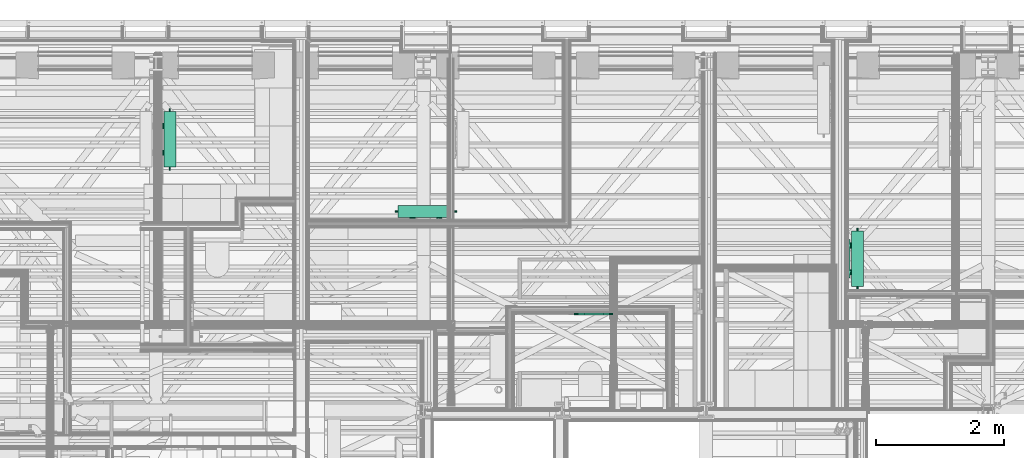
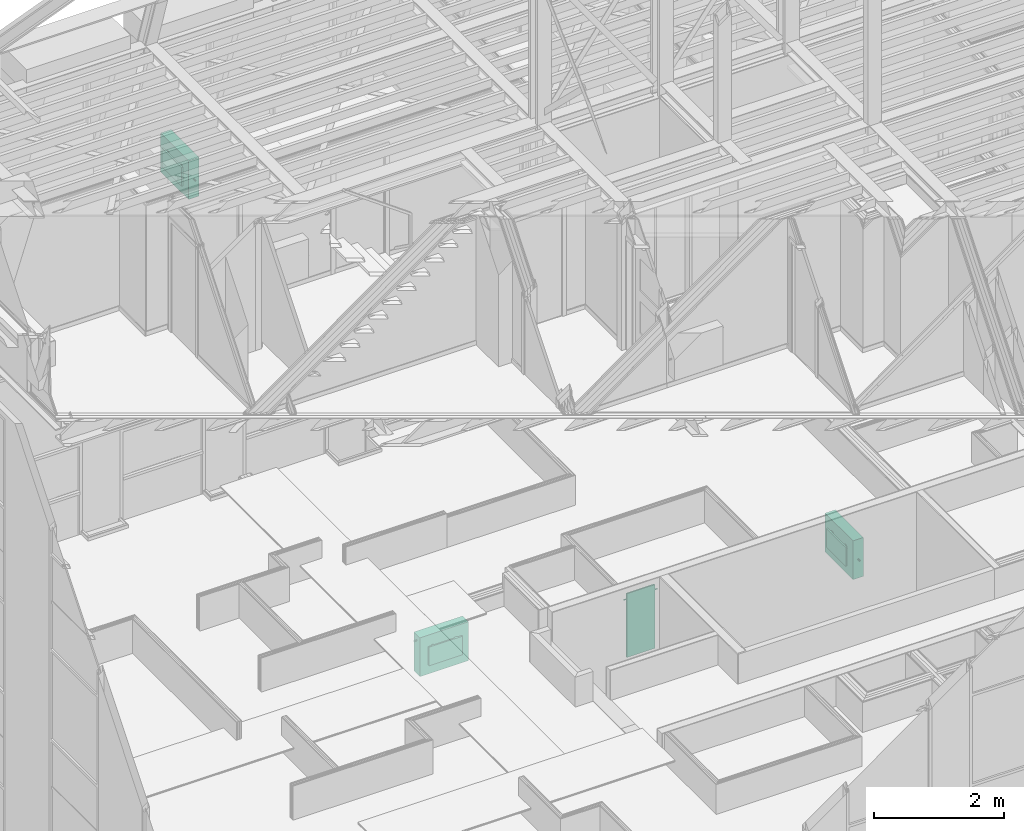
# One storey, part 163 of 183: 4 flow terminals.
"""IFC2X3 building model written with IfcOpenShell, lengths in metres."""

from ifc_helpers import new_model, entity, si_unit, converted_unit, derived_unit, money_unit, direction, frame, origin_with_axes, place, context, subcontext, project, spatial, open_shell, surface_model, material, type_object, element, save


model = new_model("IFC2X3")

# Units and contexts
model_context = context("Model", 3, precision=1e-05, world=origin_with_axes(), true_north=direction((0.0, 1.0)))
body_context = subcontext(model_context, "Body", "Model", "MODEL_VIEW", scale=1.0)
ifc_project = project(units=[si_unit("LENGTHUNIT", "METRE"), si_unit("AREAUNIT", "SQUARE_METRE"), si_unit("VOLUMEUNIT", "CUBIC_METRE"), si_unit("ABSORBEDDOSEUNIT", "GRAY"), si_unit("AMOUNTOFSUBSTANCEUNIT", "MOLE"), si_unit("DOSEEQUIVALENTUNIT", "SIEVERT"), si_unit("ELECTRICCAPACITANCEUNIT", "FARAD"), si_unit("ELECTRICCHARGEUNIT", "COULOMB"), si_unit("ELECTRICCONDUCTANCEUNIT", "SIEMENS"), si_unit("ELECTRICCURRENTUNIT", "AMPERE"), si_unit("ELECTRICRESISTANCEUNIT", "OHM"), si_unit("ELECTRICVOLTAGEUNIT", "VOLT"), si_unit("ENERGYUNIT", "JOULE"), si_unit("FORCEUNIT", "NEWTON"), si_unit("FREQUENCYUNIT", "HERTZ"), si_unit("ILLUMINANCEUNIT", "LUX"), si_unit("INDUCTANCEUNIT", "HENRY"), si_unit("LUMINOUSFLUXUNIT", "LUMEN"), si_unit("LUMINOUSINTENSITYUNIT", "CANDELA"), si_unit("MAGNETICFLUXDENSITYUNIT", "TESLA"), si_unit("MAGNETICFLUXUNIT", "WEBER"), si_unit("MASSUNIT", "GRAM"), converted_unit("PLANEANGLEUNIT", "degree", entity("IfcReal", 0.0174532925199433), si_unit("PLANEANGLEUNIT", "RADIAN"), dimensions=[0, 0, 0, 0, 0, 0, 0]), si_unit("POWERUNIT", "WATT"), si_unit("PRESSUREUNIT", "PASCAL"), si_unit("RADIOACTIVITYUNIT", "BECQUEREL"), si_unit("SOLIDANGLEUNIT", "STERADIAN"), si_unit("THERMODYNAMICTEMPERATUREUNIT", "KELVIN"), si_unit("TIMEUNIT", "SECOND"), derived_unit("ACCELERATIONUNIT", [(si_unit("LENGTHUNIT", "METRE"), 1), (si_unit("TIMEUNIT", "SECOND"), -2)]), derived_unit("ANGULARVELOCITYUNIT", [(converted_unit("PLANEANGLEUNIT", "degree", entity("IfcReal", 0.0174532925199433), si_unit("PLANEANGLEUNIT", "RADIAN"), dimensions=[0, 0, 0, 0, 0, 0, 0]), 1), (si_unit("TIMEUNIT", "SECOND"), -1)]), derived_unit("CURVATUREUNIT", [(converted_unit("PLANEANGLEUNIT", "degree", entity("IfcReal", 0.0174532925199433), si_unit("PLANEANGLEUNIT", "RADIAN"), dimensions=[0, 0, 0, 0, 0, 0, 0]), 1), (si_unit("LENGTHUNIT", "METRE"), -1)]), derived_unit("DYNAMICVISCOSITYUNIT", [(si_unit("PRESSUREUNIT", "PASCAL"), 1), (si_unit("TIMEUNIT", "SECOND"), 1)]), derived_unit("HEATFLUXDENSITYUNIT", [(si_unit("POWERUNIT", "WATT"), 1), (si_unit("LENGTHUNIT", "METRE"), -2)]), derived_unit("HEATINGVALUEUNIT", [(si_unit("ENERGYUNIT", "JOULE"), 1), (si_unit("MASSUNIT", "GRAM"), -1)]), derived_unit("INTEGERCOUNTRATEUNIT", [(si_unit("TIMEUNIT", "SECOND"), -1)]), derived_unit("IONCONCENTRATIONUNIT", [(si_unit("MASSUNIT", "GRAM"), 1), (si_unit("VOLUMEUNIT", "CUBIC_METRE"), -1)]), derived_unit("ISOTHERMALMOISTURECAPACITYUNIT", [(si_unit("VOLUMEUNIT", "CUBIC_METRE"), 1), (si_unit("MASSUNIT", "GRAM"), -1)]), derived_unit("KINEMATICVISCOSITYUNIT", [(si_unit("AREAUNIT", "SQUARE_METRE"), 1), (si_unit("TIMEUNIT", "SECOND"), -1)]), derived_unit("LINEARFORCEUNIT", [(si_unit("FORCEUNIT", "NEWTON"), 1), (si_unit("LENGTHUNIT", "METRE"), -1)]), derived_unit("LINEARMOMENTUNIT", [(si_unit("FORCEUNIT", "NEWTON"), 1), (si_unit("LENGTHUNIT", "METRE"), -1)]), derived_unit("LINEARSTIFFNESSUNIT", [(si_unit("FORCEUNIT", "NEWTON"), 1), (si_unit("LENGTHUNIT", "METRE"), -1)]), derived_unit("LINEARVELOCITYUNIT", [(si_unit("LENGTHUNIT", "METRE"), 1), (si_unit("TIMEUNIT", "SECOND"), -1)]), derived_unit("LUMINOUSINTENSITYDISTRIBUTIONUNIT", [(si_unit("LUMINOUSINTENSITYUNIT", "CANDELA"), 1), (si_unit("LUMINOUSFLUXUNIT", "LUMEN"), -1)]), derived_unit("MASSDENSITYUNIT", [(si_unit("MASSUNIT", "GRAM"), 1), (si_unit("VOLUMEUNIT", "CUBIC_METRE"), -1)]), derived_unit("MASSFLOWRATEUNIT", [(si_unit("MASSUNIT", "GRAM"), 1), (si_unit("TIMEUNIT", "SECOND"), -1)]), derived_unit("MASSPERLENGTHUNIT", [(si_unit("MASSUNIT", "GRAM"), 1), (si_unit("LENGTHUNIT", "METRE"), -1)]), derived_unit("MODULUSOFELASTICITYUNIT", [(si_unit("FORCEUNIT", "NEWTON"), 1), (si_unit("AREAUNIT", "SQUARE_METRE"), -1)]), derived_unit("MODULUSOFLINEARSUBGRADEREACTIONUNIT", [(si_unit("FORCEUNIT", "NEWTON"), 1), (si_unit("LENGTHUNIT", "METRE"), -2)]), derived_unit("MODULUSOFROTATIONALSUBGRADEREACTIONUNIT", [(si_unit("FORCEUNIT", "NEWTON"), 1), (si_unit("LENGTHUNIT", "METRE"), 1)]), derived_unit("MODULUSOFSUBGRADEREACTIONUNIT", [(si_unit("FORCEUNIT", "NEWTON"), 1), (si_unit("VOLUMEUNIT", "CUBIC_METRE"), -1)]), derived_unit("MOISTUREDIFFUSIVITYUNIT", [(si_unit("VOLUMEUNIT", "CUBIC_METRE"), 1), (si_unit("TIMEUNIT", "SECOND"), -1)]), derived_unit("MOLECULARWEIGHTUNIT", [(si_unit("MASSUNIT", "GRAM"), 1), (si_unit("AMOUNTOFSUBSTANCEUNIT", "MOLE"), -1)]), derived_unit("PLANARFORCEUNIT", [(si_unit("FORCEUNIT", "NEWTON"), 1), (si_unit("LENGTHUNIT", "METRE"), -2)]), derived_unit("ROTATIONALFREQUENCYUNIT", [(si_unit("TIMEUNIT", "SECOND"), -1)]), derived_unit("ROTATIONALMASSUNIT", [(si_unit("MASSUNIT", "GRAM"), 1), (si_unit("LENGTHUNIT", "METRE"), 2)]), derived_unit("ROTATIONALSTIFFNESSUNIT", [(si_unit("FORCEUNIT", "NEWTON"), 1), (si_unit("LENGTHUNIT", "METRE"), 1), (converted_unit("PLANEANGLEUNIT", "degree", entity("IfcReal", 0.0174532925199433), si_unit("PLANEANGLEUNIT", "RADIAN"), dimensions=[0, 0, 0, 0, 0, 0, 0]), -1)]), derived_unit("SECTIONAREAINTEGRALUNIT", [(si_unit("LENGTHUNIT", "METRE"), 5)]), derived_unit("SECTIONMODULUSUNIT", [(si_unit("LENGTHUNIT", "METRE"), 3)]), derived_unit("SHEARMODULUSUNIT", [(si_unit("FORCEUNIT", "NEWTON"), 1), (si_unit("AREAUNIT", "SQUARE_METRE"), -1)]), derived_unit("SOUNDPOWERUNIT", [(si_unit("ENERGYUNIT", "JOULE"), 1), (si_unit("TIMEUNIT", "SECOND"), -1)]), derived_unit("SPECIFICHEATCAPACITYUNIT", [(si_unit("FORCEUNIT", "NEWTON"), 1), (si_unit("MASSUNIT", "GRAM"), -1), (si_unit("THERMODYNAMICTEMPERATUREUNIT", "KELVIN"), -1)]), derived_unit("TEMPERATUREGRADIENTUNIT", [(si_unit("THERMODYNAMICTEMPERATUREUNIT", "KELVIN"), 1), (si_unit("LENGTHUNIT", "METRE"), -1)]), derived_unit("THERMALADMITTANCEUNIT", [(si_unit("POWERUNIT", "WATT"), 1), (si_unit("AREAUNIT", "SQUARE_METRE"), -1), (si_unit("THERMODYNAMICTEMPERATUREUNIT", "KELVIN"), -1)]), derived_unit("THERMALCONDUCTANCEUNIT", [(si_unit("POWERUNIT", "WATT"), 1), (si_unit("LENGTHUNIT", "METRE"), -1), (si_unit("THERMODYNAMICTEMPERATUREUNIT", "KELVIN"), -1)]), derived_unit("THERMALEXPANSIONCOEFFICIENTUNIT", [(si_unit("THERMODYNAMICTEMPERATUREUNIT", "KELVIN"), -1)]), derived_unit("THERMALRESISTANCEUNIT", [(si_unit("AREAUNIT", "SQUARE_METRE"), 1), (si_unit("POWERUNIT", "WATT"), -1)]), derived_unit("THERMALTRANSMITTANCEUNIT", [(si_unit("POWERUNIT", "WATT"), 1), (si_unit("AREAUNIT", "SQUARE_METRE"), -1), (si_unit("THERMODYNAMICTEMPERATUREUNIT", "KELVIN"), -1)]), derived_unit("TORQUEUNIT", [(si_unit("FORCEUNIT", "NEWTON"), 1), (si_unit("LENGTHUNIT", "METRE"), 1)]), derived_unit("VAPORPERMEABILITYUNIT", [(si_unit("MASSUNIT", "GRAM"), 1), (si_unit("TIMEUNIT", "SECOND"), -1)]), derived_unit("VOLUMETRICFLOWRATEUNIT", [(si_unit("VOLUMEUNIT", "CUBIC_METRE"), 1), (si_unit("TIMEUNIT", "SECOND"), -1)]), derived_unit("WARPINGCONSTANTUNIT", [(si_unit("LENGTHUNIT", "METRE"), 6)]), derived_unit("WARPINGMOMENTUNIT", [(si_unit("FORCEUNIT", "NEWTON"), 1), (si_unit("LENGTHUNIT", "METRE"), 2)]), money_unit("GBP")], contexts=[model_context])

# Site, building, storey, space
site_placement = place(None, origin_with_axes())
site = spatial("IfcSite", under=ifc_project, at=site_placement, Name="Site", CompositionType="ELEMENT")
building_placement = place(site_placement, origin_with_axes())
building = spatial("IfcBuilding", under=site, at=building_placement, Name="Building01", CompositionType="ELEMENT")
storey_placement = place(building_placement, frame((0.0, 0.0, 5.15), z_axis=(0.0, 0.0, 1.0), x_axis=(1.0, 0.0, 0.0)))
storey = spatial("IfcBuildingStorey", under=building, at=storey_placement, Name="1F", CompositionType="ELEMENT", Elevation=5.15)
space_1_placement = place(storey_placement, frame((15.83, 8.82, 0.017975), z_axis=(0.0, 0.0, 1.0), x_axis=(0.0, -1.0, 0.0)))
space_1 = spatial("IfcSpace", under=storey, at=space_1_placement, Name="02", CompositionType="ELEMENT", InteriorOrExteriorSpace="NOTDEFINED")

# Flow terminal
ifc_material = material(Name="M_BSUK_Ventilation")
space_heater_type_1 = type_object("IfcSpaceHeaterType", Name="M-BmvRadiatorpanel-Panel", PredefinedType="NOTDEFINED")
flow_terminal_1_placement = place(storey_placement, frame((15.868382, 10.735286, 0.665), z_axis=(0.0, 0.0, 1.0), x_axis=(0.0, 1.0, 0.0)))
element("IfcFlowTerminal", 1, at=flow_terminal_1_placement, inside=space_1, type_object=space_heater_type_1, material=ifc_material, Name="M-BmvRadiatorpanel-Panel", ObjectType="M-BmvRadiatorpanel-Panel", context=body_context, shape_type="SurfaceModel", body=[
    surface_model("IfcShellBasedSurfaceModel", [(0.865, -0.0925, 0.365), (0.865, 0.0925, 0.365), (0.0, 0.0925, 0.365), (0.0, -0.0925, 0.365), (0.865, -0.0925, -0.365), (0.865, 0.0925, -0.365), (0.0, -0.0925, -0.365), (0.0, 0.0925, -0.365), (0.1325, 0.12025, 0.175), (0.7325, 0.12025, 0.175), (0.7325, 0.14525, 0.175), (0.1325, 0.14525, 0.175), (0.7325, 0.14525, -0.175), (0.1325, 0.14525, -0.175), (0.7325, 0.12025, -0.175), (0.1325, 0.12025, -0.175), (0.2225, 0.0925, 0.0775), (0.2225, 0.12025, 0.0775), (0.239721, 0.12025, 0.080925), (0.239721, 0.0925, 0.080925), (0.25432, 0.12025, 0.09068), (0.25432, 0.0925, 0.09068), (0.264075, 0.12025, 0.105279), (0.264075, 0.0925, 0.105279), (0.2675, 0.12025, 0.1225), (0.2675, 0.0925, 0.1225), (0.264075, 0.12025, 0.139721), (0.264075, 0.0925, 0.139721), (0.25432, 0.12025, 0.15432), (0.25432, 0.0925, 0.15432), (0.239721, 0.12025, 0.164075), (0.239721, 0.0925, 0.164075), (0.2225, 0.12025, 0.1675), (0.2225, 0.0925, 0.1675), (0.205279, 0.12025, 0.164075), (0.205279, 0.0925, 0.164075), (0.19068, 0.12025, 0.15432), (0.19068, 0.0925, 0.15432), (0.180925, 0.12025, 0.139721), (0.180925, 0.0925, 0.139721), (0.1775, 0.12025, 0.1225), (0.1775, 0.0925, 0.1225), (0.180925, 0.12025, 0.105279), (0.180925, 0.0925, 0.105279), (0.19068, 0.12025, 0.09068), (0.19068, 0.0925, 0.09068), (0.205279, 0.12025, 0.080925), (0.205279, 0.0925, 0.080925), (0.6425, 0.0925, 0.0775), (0.6425, 0.12025, 0.0775), (0.659721, 0.12025, 0.080925), (0.659721, 0.0925, 0.080925), (0.67432, 0.12025, 0.09068), (0.67432, 0.0925, 0.09068), (0.684075, 0.12025, 0.105279), (0.684075, 0.0925, 0.105279), (0.6875, 0.12025, 0.1225), (0.6875, 0.0925, 0.1225), (0.684075, 0.12025, 0.139721), (0.684075, 0.0925, 0.139721), (0.67432, 0.12025, 0.15432), (0.67432, 0.0925, 0.15432), (0.659721, 0.12025, 0.164075), (0.659721, 0.0925, 0.164075), (0.6425, 0.12025, 0.1675), (0.6425, 0.0925, 0.1675), (0.625279, 0.12025, 0.164075), (0.625279, 0.0925, 0.164075), (0.61068, 0.12025, 0.15432), (0.61068, 0.0925, 0.15432), (0.600925, 0.12025, 0.139721), (0.600925, 0.0925, 0.139721), (0.5975, 0.12025, 0.1225), (0.5975, 0.0925, 0.1225), (0.600925, 0.12025, 0.105279), (0.600925, 0.0925, 0.105279), (0.61068, 0.12025, 0.09068), (0.61068, 0.0925, 0.09068), (0.625279, 0.12025, 0.080925), (0.625279, 0.0925, 0.080925), (-0.05, 0.0, -0.0225), (0.0, 0.0, -0.0225), (0.0, -0.004784, -0.021548), (-0.05, -0.004784, -0.021548), (0.0, -0.008839, -0.018839), (-0.05, -0.008839, -0.018839), (0.0, -0.011548, -0.014784), (-0.05, -0.011548, -0.014784), (0.0, -0.0125, -0.01), (-0.05, -0.0125, -0.01), (0.0, -0.011548, -0.005216), (-0.05, -0.011548, -0.005216), (0.0, -0.008839, -0.001161), (-0.05, -0.008839, -0.001161), (0.0, -0.004784, 0.001548), (-0.05, -0.004784, 0.001548), (0.0, 0.0, 0.0025), (-0.05, 0.0, 0.0025), (0.0, 0.004784, 0.001548), (-0.05, 0.004784, 0.001548), (0.0, 0.008839, -0.001161), (-0.05, 0.008839, -0.001161), (0.0, 0.011548, -0.005216), (-0.05, 0.011548, -0.005216), (0.0, 0.0125, -0.01), (-0.05, 0.0125, -0.01), (0.0, 0.011548, -0.014784), (-0.05, 0.011548, -0.014784), (0.0, 0.008839, -0.018839), (-0.05, 0.008839, -0.018839), (0.0, 0.004784, -0.021548), (-0.05, 0.004784, -0.021548), (0.915, 0.0, 0.2525), (0.865, 0.0, 0.2525), (0.865, 0.004784, 0.253452), (0.915, 0.004784, 0.253452), (0.865, 0.008839, 0.256161), (0.915, 0.008839, 0.256161), (0.865, 0.011548, 0.260216), (0.915, 0.011548, 0.260216), (0.865, 0.0125, 0.265), (0.915, 0.0125, 0.265), (0.865, 0.011548, 0.269784), (0.915, 0.011548, 0.269784), (0.865, 0.008839, 0.273839), (0.915, 0.008839, 0.273839), (0.865, 0.004784, 0.276548), (0.915, 0.004784, 0.276548), (0.865, 0.0, 0.2775), (0.915, 0.0, 0.2775), (0.865, -0.004784, 0.276548), (0.915, -0.004784, 0.276548), (0.865, -0.008839, 0.273839), (0.915, -0.008839, 0.273839), (0.865, -0.011548, 0.269784), (0.915, -0.011548, 0.269784), (0.865, -0.0125, 0.265), (0.915, -0.0125, 0.265), (0.865, -0.011548, 0.260216), (0.915, -0.011548, 0.260216), (0.865, -0.008839, 0.256161), (0.915, -0.008839, 0.256161), (0.865, -0.004784, 0.253452), (0.915, -0.004784, 0.253452)], [open_shell([[[0, 1, 2, 3]], [[4, 5, 1, 0]], [[6, 7, 5, 4]], [[3, 2, 7, 6]], [[1, 5, 7, 2]], [[3, 6, 4, 0]], [[8, 9, 10, 11]], [[11, 10, 12, 13]], [[13, 12, 14, 15]], [[15, 14, 9, 8]], [[9, 14, 12, 10]], [[11, 13, 15, 8]], [[16, 17, 18, 19]], [[19, 18, 20, 21]], [[21, 20, 22, 23]], [[23, 22, 24, 25]], [[25, 24, 26, 27]], [[27, 26, 28, 29]], [[29, 28, 30, 31]], [[31, 30, 32, 33]], [[33, 32, 34, 35]], [[35, 34, 36, 37]], [[37, 36, 38, 39]], [[39, 38, 40, 41]], [[41, 40, 42, 43]], [[43, 42, 44, 45]], [[45, 44, 46, 47]], [[47, 46, 17, 16]], [[48, 49, 50, 51]], [[51, 50, 52, 53]], [[53, 52, 54, 55]], [[55, 54, 56, 57]], [[57, 56, 58, 59]], [[59, 58, 60, 61]], [[61, 60, 62, 63]], [[63, 62, 64, 65]], [[65, 64, 66, 67]], [[67, 66, 68, 69]], [[69, 68, 70, 71]], [[71, 70, 72, 73]], [[73, 72, 74, 75]], [[75, 74, 76, 77]], [[77, 76, 78, 79]], [[79, 78, 49, 48]], [[80, 81, 82, 83]], [[83, 82, 84, 85]], [[85, 84, 86, 87]], [[87, 86, 88, 89]], [[89, 88, 90, 91]], [[91, 90, 92, 93]], [[93, 92, 94, 95]], [[95, 94, 96, 97]], [[97, 96, 98, 99]], [[99, 98, 100, 101]], [[101, 100, 102, 103]], [[103, 102, 104, 105]], [[105, 104, 106, 107]], [[107, 106, 108, 109]], [[109, 108, 110, 111]], [[111, 110, 81, 80]], [[112, 113, 114, 115]], [[115, 114, 116, 117]], [[117, 116, 118, 119]], [[119, 118, 120, 121]], [[121, 120, 122, 123]], [[123, 122, 124, 125]], [[125, 124, 126, 127]], [[127, 126, 128, 129]], [[129, 128, 130, 131]], [[131, 130, 132, 133]], [[133, 132, 134, 135]], [[135, 134, 136, 137]], [[137, 136, 138, 139]], [[139, 138, 140, 141]], [[141, 140, 142, 143]], [[143, 142, 113, 112]]])]),
])

# Space
space_2_placement = place(storey_placement, frame((7.289669, 14.582, 0.017975), z_axis=(0.0, 0.0, 1.0), x_axis=(0.0, -1.0, 0.0)))
space_2 = spatial("IfcSpace", under=storey, at=space_2_placement, Name="08", CompositionType="ELEMENT", InteriorOrExteriorSpace="NOTDEFINED")

# Flow terminal
flow_terminal_2_placement = place(storey_placement, frame((9.5575, 11.908374, 0.665), z_axis=(0.0, 0.0, 1.0), x_axis=(-1.0, 0.0, 0.0)))
element("IfcFlowTerminal", 2, at=flow_terminal_2_placement, inside=space_2, type_object=space_heater_type_1, material=ifc_material, Name="M-BmvRadiatorpanel-Panel", ObjectType="M-BmvRadiatorpanel-Panel", context=body_context, shape_type="SurfaceModel", body=[
    surface_model("IfcShellBasedSurfaceModel", [(0.865, -0.0925, 0.365), (0.865, 0.0925, 0.365), (0.0, 0.0925, 0.365), (0.0, -0.0925, 0.365), (0.865, -0.0925, -0.365), (0.865, 0.0925, -0.365), (0.0, -0.0925, -0.365), (0.0, 0.0925, -0.365), (0.1325, 0.12025, 0.175), (0.7325, 0.12025, 0.175), (0.7325, 0.14525, 0.175), (0.1325, 0.14525, 0.175), (0.7325, 0.14525, -0.175), (0.1325, 0.14525, -0.175), (0.7325, 0.12025, -0.175), (0.1325, 0.12025, -0.175), (0.2225, 0.0925, 0.0775), (0.2225, 0.12025, 0.0775), (0.239721, 0.12025, 0.080925), (0.239721, 0.0925, 0.080925), (0.25432, 0.12025, 0.09068), (0.25432, 0.0925, 0.09068), (0.264075, 0.12025, 0.105279), (0.264075, 0.0925, 0.105279), (0.2675, 0.12025, 0.1225), (0.2675, 0.0925, 0.1225), (0.264075, 0.12025, 0.139721), (0.264075, 0.0925, 0.139721), (0.25432, 0.12025, 0.15432), (0.25432, 0.0925, 0.15432), (0.239721, 0.12025, 0.164075), (0.239721, 0.0925, 0.164075), (0.2225, 0.12025, 0.1675), (0.2225, 0.0925, 0.1675), (0.205279, 0.12025, 0.164075), (0.205279, 0.0925, 0.164075), (0.19068, 0.12025, 0.15432), (0.19068, 0.0925, 0.15432), (0.180925, 0.12025, 0.139721), (0.180925, 0.0925, 0.139721), (0.1775, 0.12025, 0.1225), (0.1775, 0.0925, 0.1225), (0.180925, 0.12025, 0.105279), (0.180925, 0.0925, 0.105279), (0.19068, 0.12025, 0.09068), (0.19068, 0.0925, 0.09068), (0.205279, 0.12025, 0.080925), (0.205279, 0.0925, 0.080925), (0.6425, 0.0925, 0.0775), (0.6425, 0.12025, 0.0775), (0.659721, 0.12025, 0.080925), (0.659721, 0.0925, 0.080925), (0.67432, 0.12025, 0.09068), (0.67432, 0.0925, 0.09068), (0.684075, 0.12025, 0.105279), (0.684075, 0.0925, 0.105279), (0.6875, 0.12025, 0.1225), (0.6875, 0.0925, 0.1225), (0.684075, 0.12025, 0.139721), (0.684075, 0.0925, 0.139721), (0.67432, 0.12025, 0.15432), (0.67432, 0.0925, 0.15432), (0.659721, 0.12025, 0.164075), (0.659721, 0.0925, 0.164075), (0.6425, 0.12025, 0.1675), (0.6425, 0.0925, 0.1675), (0.625279, 0.12025, 0.164075), (0.625279, 0.0925, 0.164075), (0.61068, 0.12025, 0.15432), (0.61068, 0.0925, 0.15432), (0.600925, 0.12025, 0.139721), (0.600925, 0.0925, 0.139721), (0.5975, 0.12025, 0.1225), (0.5975, 0.0925, 0.1225), (0.600925, 0.12025, 0.105279), (0.600925, 0.0925, 0.105279), (0.61068, 0.12025, 0.09068), (0.61068, 0.0925, 0.09068), (0.625279, 0.12025, 0.080925), (0.625279, 0.0925, 0.080925), (-0.05, 0.0, -0.0225), (0.0, 0.0, -0.0225), (0.0, -0.004784, -0.021548), (-0.05, -0.004784, -0.021548), (0.0, -0.008839, -0.018839), (-0.05, -0.008839, -0.018839), (0.0, -0.011548, -0.014784), (-0.05, -0.011548, -0.014784), (0.0, -0.0125, -0.01), (-0.05, -0.0125, -0.01), (0.0, -0.011548, -0.005216), (-0.05, -0.011548, -0.005216), (0.0, -0.008839, -0.001161), (-0.05, -0.008839, -0.001161), (0.0, -0.004784, 0.001548), (-0.05, -0.004784, 0.001548), (0.0, 0.0, 0.0025), (-0.05, 0.0, 0.0025), (0.0, 0.004784, 0.001548), (-0.05, 0.004784, 0.001548), (0.0, 0.008839, -0.001161), (-0.05, 0.008839, -0.001161), (0.0, 0.011548, -0.005216), (-0.05, 0.011548, -0.005216), (0.0, 0.0125, -0.01), (-0.05, 0.0125, -0.01), (0.0, 0.011548, -0.014784), (-0.05, 0.011548, -0.014784), (0.0, 0.008839, -0.018839), (-0.05, 0.008839, -0.018839), (0.0, 0.004784, -0.021548), (-0.05, 0.004784, -0.021548), (0.915, 0.0, 0.2525), (0.865, 0.0, 0.2525), (0.865, 0.004784, 0.253452), (0.915, 0.004784, 0.253452), (0.865, 0.008839, 0.256161), (0.915, 0.008839, 0.256161), (0.865, 0.011548, 0.260216), (0.915, 0.011548, 0.260216), (0.865, 0.0125, 0.265), (0.915, 0.0125, 0.265), (0.865, 0.011548, 0.269784), (0.915, 0.011548, 0.269784), (0.865, 0.008839, 0.273839), (0.915, 0.008839, 0.273839), (0.865, 0.004784, 0.276548), (0.915, 0.004784, 0.276548), (0.865, 0.0, 0.2775), (0.915, 0.0, 0.2775), (0.865, -0.004784, 0.276548), (0.915, -0.004784, 0.276548), (0.865, -0.008839, 0.273839), (0.915, -0.008839, 0.273839), (0.865, -0.011548, 0.269784), (0.915, -0.011548, 0.269784), (0.865, -0.0125, 0.265), (0.915, -0.0125, 0.265), (0.865, -0.011548, 0.260216), (0.915, -0.011548, 0.260216), (0.865, -0.008839, 0.256161), (0.915, -0.008839, 0.256161), (0.865, -0.004784, 0.253452), (0.915, -0.004784, 0.253452)], [open_shell([[[0, 1, 2, 3]], [[4, 5, 1, 0]], [[6, 7, 5, 4]], [[3, 2, 7, 6]], [[1, 5, 7, 2]], [[3, 6, 4, 0]], [[8, 9, 10, 11]], [[11, 10, 12, 13]], [[13, 12, 14, 15]], [[15, 14, 9, 8]], [[9, 14, 12, 10]], [[11, 13, 15, 8]], [[16, 17, 18, 19]], [[19, 18, 20, 21]], [[21, 20, 22, 23]], [[23, 22, 24, 25]], [[25, 24, 26, 27]], [[27, 26, 28, 29]], [[29, 28, 30, 31]], [[31, 30, 32, 33]], [[33, 32, 34, 35]], [[35, 34, 36, 37]], [[37, 36, 38, 39]], [[39, 38, 40, 41]], [[41, 40, 42, 43]], [[43, 42, 44, 45]], [[45, 44, 46, 47]], [[47, 46, 17, 16]], [[48, 49, 50, 51]], [[51, 50, 52, 53]], [[53, 52, 54, 55]], [[55, 54, 56, 57]], [[57, 56, 58, 59]], [[59, 58, 60, 61]], [[61, 60, 62, 63]], [[63, 62, 64, 65]], [[65, 64, 66, 67]], [[67, 66, 68, 69]], [[69, 68, 70, 71]], [[71, 70, 72, 73]], [[73, 72, 74, 75]], [[75, 74, 76, 77]], [[77, 76, 78, 79]], [[79, 78, 49, 48]], [[80, 81, 82, 83]], [[83, 82, 84, 85]], [[85, 84, 86, 87]], [[87, 86, 88, 89]], [[89, 88, 90, 91]], [[91, 90, 92, 93]], [[93, 92, 94, 95]], [[95, 94, 96, 97]], [[97, 96, 98, 99]], [[99, 98, 100, 101]], [[101, 100, 102, 103]], [[103, 102, 104, 105]], [[105, 104, 106, 107]], [[107, 106, 108, 109]], [[109, 108, 110, 111]], [[111, 110, 81, 80]], [[112, 113, 114, 115]], [[115, 114, 116, 117]], [[117, 116, 118, 119]], [[119, 118, 120, 121]], [[121, 120, 122, 123]], [[123, 122, 124, 125]], [[125, 124, 126, 127]], [[127, 126, 128, 129]], [[129, 128, 130, 131]], [[131, 130, 132, 133]], [[133, 132, 134, 135]], [[135, 134, 136, 137]], [[137, 136, 138, 139]], [[139, 138, 140, 141]], [[141, 140, 142, 143]], [[143, 142, 113, 112]]])]),
])

# Space
space_3_placement = place(storey_placement, frame((1.009939, 13.890379, 9.81), z_axis=(0.0, 0.0, 1.0), x_axis=(0.0, -1.0, 0.0)))
space_3 = spatial("IfcSpace", under=storey, at=space_3_placement, Name="26", CompositionType="ELEMENT", InteriorOrExteriorSpace="NOTDEFINED")

# Flow terminal
flow_terminal_3_placement = place(storey_placement, frame((5.125274, 12.601764, 10.445), z_axis=(0.0, 0.0, 1.0), x_axis=(0.0, 1.0, 0.0)))
element("IfcFlowTerminal", 3, at=flow_terminal_3_placement, inside=space_3, type_object=space_heater_type_1, material=ifc_material, Name="M-BmvRadiatorpanel-Panel", ObjectType="M-BmvRadiatorpanel-Panel", context=body_context, shape_type="SurfaceModel", body=[
    surface_model("IfcShellBasedSurfaceModel", [(0.865, -0.0925, 0.365), (0.865, 0.0925, 0.365), (0.0, 0.0925, 0.365), (0.0, -0.0925, 0.365), (0.865, -0.0925, -0.365), (0.865, 0.0925, -0.365), (0.0, -0.0925, -0.365), (0.0, 0.0925, -0.365), (0.1325, 0.12025, 0.175), (0.7325, 0.12025, 0.175), (0.7325, 0.14525, 0.175), (0.1325, 0.14525, 0.175), (0.7325, 0.14525, -0.175), (0.1325, 0.14525, -0.175), (0.7325, 0.12025, -0.175), (0.1325, 0.12025, -0.175), (0.2225, 0.0925, 0.0775), (0.2225, 0.12025, 0.0775), (0.239721, 0.12025, 0.080925), (0.239721, 0.0925, 0.080925), (0.25432, 0.12025, 0.09068), (0.25432, 0.0925, 0.09068), (0.264075, 0.12025, 0.105279), (0.264075, 0.0925, 0.105279), (0.2675, 0.12025, 0.1225), (0.2675, 0.0925, 0.1225), (0.264075, 0.12025, 0.139721), (0.264075, 0.0925, 0.139721), (0.25432, 0.12025, 0.15432), (0.25432, 0.0925, 0.15432), (0.239721, 0.12025, 0.164075), (0.239721, 0.0925, 0.164075), (0.2225, 0.12025, 0.1675), (0.2225, 0.0925, 0.1675), (0.205279, 0.12025, 0.164075), (0.205279, 0.0925, 0.164075), (0.19068, 0.12025, 0.15432), (0.19068, 0.0925, 0.15432), (0.180925, 0.12025, 0.139721), (0.180925, 0.0925, 0.139721), (0.1775, 0.12025, 0.1225), (0.1775, 0.0925, 0.1225), (0.180925, 0.12025, 0.105279), (0.180925, 0.0925, 0.105279), (0.19068, 0.12025, 0.09068), (0.19068, 0.0925, 0.09068), (0.205279, 0.12025, 0.080925), (0.205279, 0.0925, 0.080925), (0.6425, 0.0925, 0.0775), (0.6425, 0.12025, 0.0775), (0.659721, 0.12025, 0.080925), (0.659721, 0.0925, 0.080925), (0.67432, 0.12025, 0.09068), (0.67432, 0.0925, 0.09068), (0.684075, 0.12025, 0.105279), (0.684075, 0.0925, 0.105279), (0.6875, 0.12025, 0.1225), (0.6875, 0.0925, 0.1225), (0.684075, 0.12025, 0.139721), (0.684075, 0.0925, 0.139721), (0.67432, 0.12025, 0.15432), (0.67432, 0.0925, 0.15432), (0.659721, 0.12025, 0.164075), (0.659721, 0.0925, 0.164075), (0.6425, 0.12025, 0.1675), (0.6425, 0.0925, 0.1675), (0.625279, 0.12025, 0.164075), (0.625279, 0.0925, 0.164075), (0.61068, 0.12025, 0.15432), (0.61068, 0.0925, 0.15432), (0.600925, 0.12025, 0.139721), (0.600925, 0.0925, 0.139721), (0.5975, 0.12025, 0.1225), (0.5975, 0.0925, 0.1225), (0.600925, 0.12025, 0.105279), (0.600925, 0.0925, 0.105279), (0.61068, 0.12025, 0.09068), (0.61068, 0.0925, 0.09068), (0.625279, 0.12025, 0.080925), (0.625279, 0.0925, 0.080925), (-0.05, 0.0, -0.0225), (0.0, 0.0, -0.0225), (0.0, -0.004784, -0.021548), (-0.05, -0.004784, -0.021548), (0.0, -0.008839, -0.018839), (-0.05, -0.008839, -0.018839), (0.0, -0.011548, -0.014784), (-0.05, -0.011548, -0.014784), (0.0, -0.0125, -0.01), (-0.05, -0.0125, -0.01), (0.0, -0.011548, -0.005216), (-0.05, -0.011548, -0.005216), (0.0, -0.008839, -0.001161), (-0.05, -0.008839, -0.001161), (0.0, -0.004784, 0.001548), (-0.05, -0.004784, 0.001548), (0.0, 0.0, 0.0025), (-0.05, 0.0, 0.0025), (0.0, 0.004784, 0.001548), (-0.05, 0.004784, 0.001548), (0.0, 0.008839, -0.001161), (-0.05, 0.008839, -0.001161), (0.0, 0.011548, -0.005216), (-0.05, 0.011548, -0.005216), (0.0, 0.0125, -0.01), (-0.05, 0.0125, -0.01), (0.0, 0.011548, -0.014784), (-0.05, 0.011548, -0.014784), (0.0, 0.008839, -0.018839), (-0.05, 0.008839, -0.018839), (0.0, 0.004784, -0.021548), (-0.05, 0.004784, -0.021548), (0.915, 0.0, 0.2525), (0.865, 0.0, 0.2525), (0.865, 0.004784, 0.253452), (0.915, 0.004784, 0.253452), (0.865, 0.008839, 0.256161), (0.915, 0.008839, 0.256161), (0.865, 0.011548, 0.260216), (0.915, 0.011548, 0.260216), (0.865, 0.0125, 0.265), (0.915, 0.0125, 0.265), (0.865, 0.011548, 0.269784), (0.915, 0.011548, 0.269784), (0.865, 0.008839, 0.273839), (0.915, 0.008839, 0.273839), (0.865, 0.004784, 0.276548), (0.915, 0.004784, 0.276548), (0.865, 0.0, 0.2775), (0.915, 0.0, 0.2775), (0.865, -0.004784, 0.276548), (0.915, -0.004784, 0.276548), (0.865, -0.008839, 0.273839), (0.915, -0.008839, 0.273839), (0.865, -0.011548, 0.269784), (0.915, -0.011548, 0.269784), (0.865, -0.0125, 0.265), (0.915, -0.0125, 0.265), (0.865, -0.011548, 0.260216), (0.915, -0.011548, 0.260216), (0.865, -0.008839, 0.256161), (0.915, -0.008839, 0.256161), (0.865, -0.004784, 0.253452), (0.915, -0.004784, 0.253452)], [open_shell([[[0, 1, 2, 3]], [[4, 5, 1, 0]], [[6, 7, 5, 4]], [[3, 2, 7, 6]], [[1, 5, 7, 2]], [[3, 6, 4, 0]], [[8, 9, 10, 11]], [[11, 10, 12, 13]], [[13, 12, 14, 15]], [[15, 14, 9, 8]], [[9, 14, 12, 10]], [[11, 13, 15, 8]], [[16, 17, 18, 19]], [[19, 18, 20, 21]], [[21, 20, 22, 23]], [[23, 22, 24, 25]], [[25, 24, 26, 27]], [[27, 26, 28, 29]], [[29, 28, 30, 31]], [[31, 30, 32, 33]], [[33, 32, 34, 35]], [[35, 34, 36, 37]], [[37, 36, 38, 39]], [[39, 38, 40, 41]], [[41, 40, 42, 43]], [[43, 42, 44, 45]], [[45, 44, 46, 47]], [[47, 46, 17, 16]], [[48, 49, 50, 51]], [[51, 50, 52, 53]], [[53, 52, 54, 55]], [[55, 54, 56, 57]], [[57, 56, 58, 59]], [[59, 58, 60, 61]], [[61, 60, 62, 63]], [[63, 62, 64, 65]], [[65, 64, 66, 67]], [[67, 66, 68, 69]], [[69, 68, 70, 71]], [[71, 70, 72, 73]], [[73, 72, 74, 75]], [[75, 74, 76, 77]], [[77, 76, 78, 79]], [[79, 78, 49, 48]], [[80, 81, 82, 83]], [[83, 82, 84, 85]], [[85, 84, 86, 87]], [[87, 86, 88, 89]], [[89, 88, 90, 91]], [[91, 90, 92, 93]], [[93, 92, 94, 95]], [[95, 94, 96, 97]], [[97, 96, 98, 99]], [[99, 98, 100, 101]], [[101, 100, 102, 103]], [[103, 102, 104, 105]], [[105, 104, 106, 107]], [[107, 106, 108, 109]], [[109, 108, 110, 111]], [[111, 110, 81, 80]], [[112, 113, 114, 115]], [[115, 114, 116, 117]], [[117, 116, 118, 119]], [[119, 118, 120, 121]], [[121, 120, 122, 123]], [[123, 122, 124, 125]], [[125, 124, 126, 127]], [[127, 126, 128, 129]], [[129, 128, 130, 131]], [[131, 130, 132, 133]], [[133, 132, 134, 135]], [[135, 134, 136, 137]], [[137, 136, 138, 139]], [[139, 138, 140, 141]], [[141, 140, 142, 143]], [[143, 142, 113, 112]]])]),
])

# Space
space_4_placement = place(storey_placement, frame((12.893585, 8.82, 0.017975), z_axis=(0.0, 0.0, 1.0), x_axis=(0.0, 1.0, 0.0)))
space_4 = spatial("IfcSpace", under=storey, at=space_4_placement, Name="bath", CompositionType="ELEMENT", InteriorOrExteriorSpace="NOTDEFINED")

# Flow terminal
space_heater_type_2 = type_object("IfcSpaceHeaterType", Name="M-BmvRadiator-Column", PredefinedType="NOTDEFINED")
flow_terminal_4_placement = place(storey_placement, frame((11.495935, 10.3075, 1.2), z_axis=(0.0, 0.0, 1.0), x_axis=(-1.0, 0.0, 0.0)))
element("IfcFlowTerminal", 4, at=flow_terminal_4_placement, inside=space_4, type_object=space_heater_type_2, material=ifc_material, Name="M-BmvRadiator-Column", ObjectType="M-BmvRadiator-Column", context=body_context, shape_type="SurfaceModel", body=[
    surface_model("IfcShellBasedSurfaceModel", [(0.0, -0.0125, 0.6), (0.0, -0.0125, -0.6), (0.0, 0.0125, -0.6), (0.0, 0.0125, 0.6), (-0.5, -0.0125, 0.6), (-0.5, -0.0125, -0.6), (-0.5, 0.0125, -0.6), (-0.5, 0.0125, 0.6), (-0.1, 0.0125, 0.6), (-0.1, -0.0125, 0.6), (-0.1, -0.0125, -0.6), (-0.1, 0.0125, -0.6), (-0.2, 0.0125, 0.6), (-0.2, -0.0125, 0.6), (-0.2, -0.0125, -0.6), (-0.2, 0.0125, -0.6), (-0.3, 0.0125, 0.6), (-0.3, -0.0125, 0.6), (-0.3, -0.0125, -0.6), (-0.3, 0.0125, -0.6), (-0.4, 0.0125, 0.6), (-0.4, -0.0125, 0.6), (-0.4, -0.0125, -0.6), (-0.4, 0.0125, -0.6), (0.05, 0.0, 0.4825), (0.0, 0.0, 0.4825), (0.0, 0.003827, 0.483261), (0.05, 0.003827, 0.483261), (0.0, 0.007071, 0.485429), (0.05, 0.007071, 0.485429), (0.0, 0.009239, 0.488673), (0.05, 0.009239, 0.488673), (0.0, 0.01, 0.4925), (0.05, 0.01, 0.4925), (0.0, 0.009239, 0.496327), (0.05, 0.009239, 0.496327), (0.0, 0.007071, 0.499571), (0.05, 0.007071, 0.499571), (0.0, 0.003827, 0.501739), (0.05, 0.003827, 0.501739), (0.0, 0.0, 0.5025), (0.05, 0.0, 0.5025), (0.0, -0.003827, 0.501739), (0.05, -0.003827, 0.501739), (0.0, -0.007071, 0.499571), (0.05, -0.007071, 0.499571), (0.0, -0.009239, 0.496327), (0.05, -0.009239, 0.496327), (0.0, -0.01, 0.4925), (0.05, -0.01, 0.4925), (0.0, -0.009239, 0.488673), (0.05, -0.009239, 0.488673), (0.0, -0.007071, 0.485429), (0.05, -0.007071, 0.485429), (0.0, -0.003827, 0.483261), (0.05, -0.003827, 0.483261), (-0.55, 0.0, 0.4884), (-0.5, 0.0, 0.4884), (-0.5, -0.003827, 0.489161), (-0.55, -0.003827, 0.489161), (-0.5, -0.007071, 0.491329), (-0.55, -0.007071, 0.491329), (-0.5, -0.009239, 0.494573), (-0.55, -0.009239, 0.494573), (-0.5, -0.01, 0.4984), (-0.55, -0.01, 0.4984), (-0.5, -0.009239, 0.502227), (-0.55, -0.009239, 0.502227), (-0.5, -0.007071, 0.505471), (-0.55, -0.007071, 0.505471), (-0.5, -0.003827, 0.507639), (-0.55, -0.003827, 0.507639), (-0.5, 0.0, 0.5084), (-0.55, 0.0, 0.5084), (-0.5, 0.003827, 0.507639), (-0.55, 0.003827, 0.507639), (-0.5, 0.007071, 0.505471), (-0.55, 0.007071, 0.505471), (-0.5, 0.009239, 0.502227), (-0.55, 0.009239, 0.502227), (-0.5, 0.01, 0.4984), (-0.55, 0.01, 0.4984), (-0.5, 0.009239, 0.494573), (-0.55, 0.009239, 0.494573), (-0.5, 0.007071, 0.491329), (-0.55, 0.007071, 0.491329), (-0.5, 0.003827, 0.489161), (-0.55, 0.003827, 0.489161)], [open_shell([[[0, 1, 2, 3]], [[4, 5, 6, 7]], [[8, 3, 0, 9]], [[9, 0, 1, 10]], [[10, 1, 2, 11]], [[11, 2, 3, 8]], [[12, 8, 9, 13]], [[13, 9, 10, 14]], [[14, 10, 11, 15]], [[15, 11, 8, 12]], [[16, 12, 13, 17]], [[17, 13, 14, 18]], [[18, 14, 15, 19]], [[19, 15, 12, 16]], [[20, 16, 17, 21]], [[21, 17, 18, 22]], [[22, 18, 19, 23]], [[23, 19, 16, 20]], [[7, 20, 21, 4]], [[4, 21, 22, 5]], [[5, 22, 23, 6]], [[6, 23, 20, 7]], [[24, 25, 26, 27]], [[27, 26, 28, 29]], [[29, 28, 30, 31]], [[31, 30, 32, 33]], [[33, 32, 34, 35]], [[35, 34, 36, 37]], [[37, 36, 38, 39]], [[39, 38, 40, 41]], [[41, 40, 42, 43]], [[43, 42, 44, 45]], [[45, 44, 46, 47]], [[47, 46, 48, 49]], [[49, 48, 50, 51]], [[51, 50, 52, 53]], [[53, 52, 54, 55]], [[55, 54, 25, 24]], [[56, 57, 58, 59]], [[59, 58, 60, 61]], [[61, 60, 62, 63]], [[63, 62, 64, 65]], [[65, 64, 66, 67]], [[67, 66, 68, 69]], [[69, 68, 70, 71]], [[71, 70, 72, 73]], [[73, 72, 74, 75]], [[75, 74, 76, 77]], [[77, 76, 78, 79]], [[79, 78, 80, 81]], [[81, 80, 82, 83]], [[83, 82, 84, 85]], [[85, 84, 86, 87]], [[87, 86, 57, 56]]])]),
])

save(model, "model.ifc")
